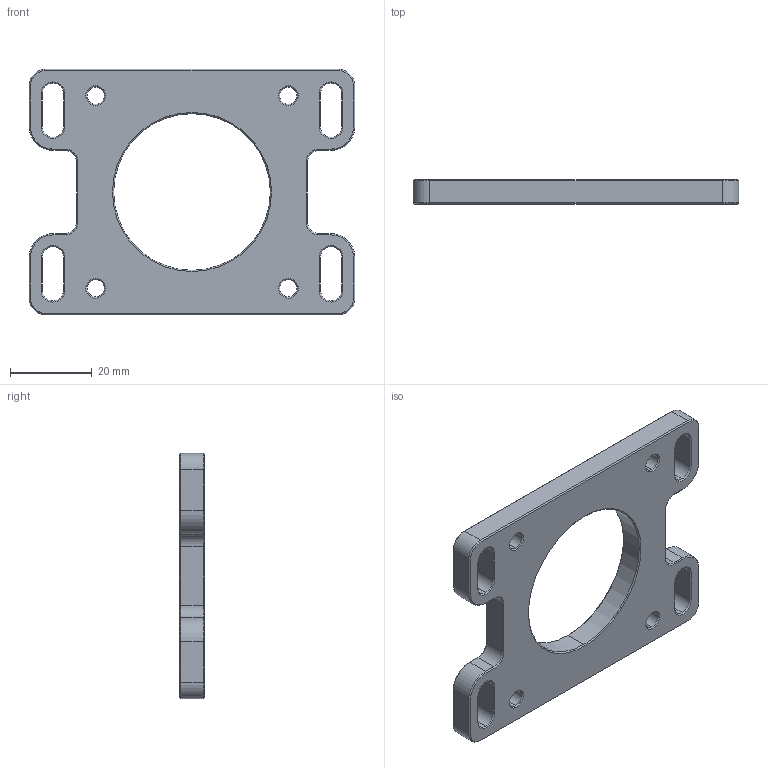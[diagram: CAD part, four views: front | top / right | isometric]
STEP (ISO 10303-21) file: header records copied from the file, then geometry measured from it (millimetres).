
FILE_DESCRIPTION (( 'STEP AP214' ), '1' );
FILE_NAME ('MAM11204 -XB- Plaque BlocMoteur InterfaceNema24.STEP', '2024-12-18T11:00:27', ( '' ), ( '' ), 'SwSTEP 2.0', 'SolidWorks 2019', '' );
FILE_SCHEMA (( 'AUTOMOTIVE_DESIGN' ));
Length unit declared in the file: millimetre
Products named in the file (1): MAM11204 -XB- Plaque BlocMoteur InterfaceNema24
Bounding box: 79.6 x 6 x 60 mm (x, y, z)
Volume: 16798.9 mm3; surface area: 9043.2 mm2
Topology: 1 solids, 1 shells, 164 faces, 382 edges, 220 vertices
Faces by surface type: cone 68, plane 62, cylinder 34
Entity records: 4732 total; most frequent: DIRECTION 852, CARTESIAN_POINT 767, ORIENTED_EDGE 764, EDGE_CURVE 382, AXIS2_PLACEMENT_3D 305, LINE 242, VECTOR 242, VERTEX_POINT 220
